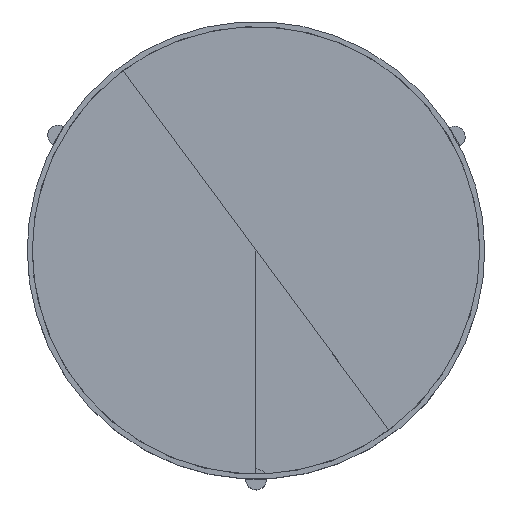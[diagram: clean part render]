
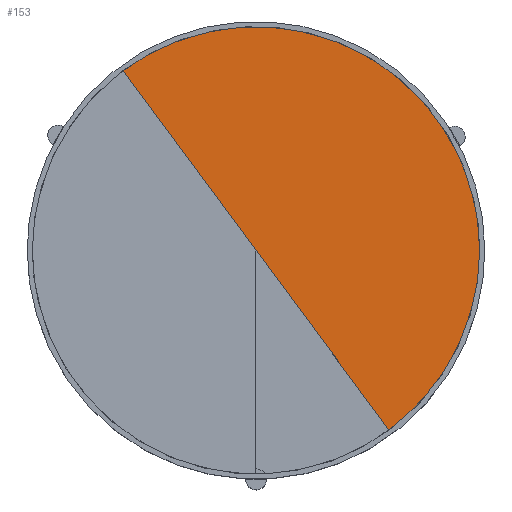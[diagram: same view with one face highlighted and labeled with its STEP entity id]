
A CAD part, top view. The second image highlights one B-rep face of the part: STEP entity #153.
In plain terms, the highlighted planar face has unit normal (0, 0, 1).
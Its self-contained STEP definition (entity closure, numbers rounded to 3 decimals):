
#31=B_SPLINE_CURVE_WITH_KNOTS('',1,(#1059,#1060),.UNSPECIFIED.,.F.,.F.,
(2,2),(0.,890.),.UNSPECIFIED.);
#153=ADVANCED_FACE('',(#195),#637,.T.);
#195=FACE_OUTER_BOUND('',#237,.T.);
#237=EDGE_LOOP('',(#341,#342,#343));
#341=ORIENTED_EDGE('',*,*,#458,.T.);
#342=ORIENTED_EDGE('',*,*,#460,.T.);
#343=ORIENTED_EDGE('',*,*,#454,.T.);
#454=EDGE_CURVE('',#598,#600,#535,.T.);
#458=EDGE_CURVE('',#600,#601,#31,.T.);
#460=EDGE_CURVE('',#601,#598,#537,.T.);
#535=(
BOUNDED_CURVE()
B_SPLINE_CURVE(2,(#1050,#1051,#1052),.UNSPECIFIED.,.F.,.F.)
B_SPLINE_CURVE_WITH_KNOTS((3,3),(0.,691.15),.UNSPECIFIED.)
CURVE()
GEOMETRIC_REPRESENTATION_ITEM()
RATIONAL_B_SPLINE_CURVE((1.,0.707,1.))
REPRESENTATION_ITEM('')
);
#537=(
BOUNDED_CURVE()
B_SPLINE_CURVE(2,(#1064,#1065,#1066),.UNSPECIFIED.,.F.,.F.)
B_SPLINE_CURVE_WITH_KNOTS((3,3),(2073.451,2764.602),
 .UNSPECIFIED.)
CURVE()
GEOMETRIC_REPRESENTATION_ITEM()
RATIONAL_B_SPLINE_CURVE((1.,0.707,1.))
REPRESENTATION_ITEM('')
);
#598=VERTEX_POINT('',#1040);
#600=VERTEX_POINT('',#1042);
#601=VERTEX_POINT('',#1043);
#637=PLANE('',#698);
#698=AXIS2_PLACEMENT_3D('',#1038,#723,$);
#723=DIRECTION('',(0.,0.,1.));
#1038=CARTESIAN_POINT('',(-84.902,-570.618,357.145));
#1040=CARTESIAN_POINT('',(262.208,194.286,357.145));
#1042=CARTESIAN_POINT('',(-194.286,262.208,357.145));
#1043=CARTESIAN_POINT('',(194.286,-262.208,357.145));
#1050=CARTESIAN_POINT('',(262.208,194.286,357.145));
#1051=CARTESIAN_POINT('',(67.922,456.494,357.145));
#1052=CARTESIAN_POINT('',(-194.286,262.208,357.145));
#1059=CARTESIAN_POINT('',(-194.286,262.208,357.145));
#1060=CARTESIAN_POINT('',(194.286,-262.208,357.145));
#1064=CARTESIAN_POINT('',(194.286,-262.208,357.145));
#1065=CARTESIAN_POINT('',(456.494,-67.922,357.145));
#1066=CARTESIAN_POINT('',(262.208,194.286,357.145));
